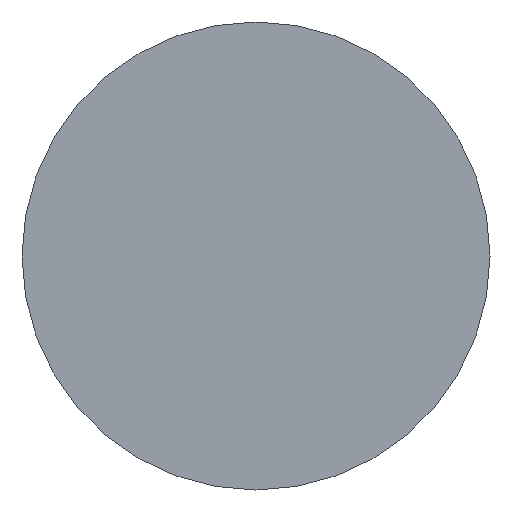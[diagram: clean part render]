
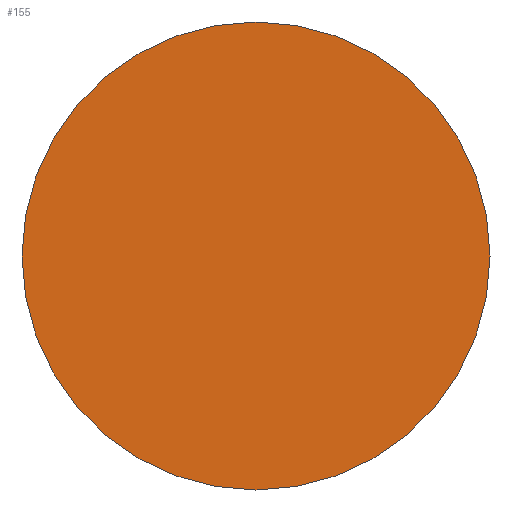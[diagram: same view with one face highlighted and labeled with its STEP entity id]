
A CAD part, left-side view. The second image highlights one B-rep face of the part: STEP entity #155.
In plain terms, the highlighted planar face has unit normal (-1, 0, 0).
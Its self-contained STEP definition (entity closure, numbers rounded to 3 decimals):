
#3 = VERTEX_POINT ( 'NONE', #53 ) ;
#7 = PLANE ( 'NONE',  #92 ) ;
#18 = CARTESIAN_POINT ( 'NONE',  ( 0., 0., 0. ) ) ;
#23 = CARTESIAN_POINT ( 'NONE',  ( 0., 0., -2. ) ) ;
#34 = ORIENTED_EDGE ( 'NONE', *, *, #183, .T. ) ;
#53 = CARTESIAN_POINT ( 'NONE',  ( 0., 0., 2. ) ) ;
#74 = FACE_OUTER_BOUND ( 'NONE', #143, .T. ) ;
#79 = AXIS2_PLACEMENT_3D ( 'NONE', #18, #281, #151 ) ;
#82 = CIRCLE ( 'NONE', #79, 2. ) ;
#89 = ORIENTED_EDGE ( 'NONE', *, *, #108, .T. ) ;
#92 = AXIS2_PLACEMENT_3D ( 'NONE', #278, #210, #133 ) ;
#93 = CIRCLE ( 'NONE', #114, 2. ) ;
#108 = EDGE_CURVE ( 'NONE', #3, #237, #93, .T. ) ;
#110 = DIRECTION ( 'NONE',  ( -1., 0., 0. ) ) ;
#114 = AXIS2_PLACEMENT_3D ( 'NONE', #231, #110, #257 ) ;
#133 = DIRECTION ( 'NONE',  ( 0., 0., -1. ) ) ;
#143 = EDGE_LOOP ( 'NONE', ( #89, #34 ) ) ;
#151 = DIRECTION ( 'NONE',  ( 0., 0., 1. ) ) ;
#155 = ADVANCED_FACE ( 'NONE', ( #74 ), #7, .F. ) ;
#183 = EDGE_CURVE ( 'NONE', #237, #3, #82, .T. ) ;
#210 = DIRECTION ( 'NONE',  ( 1., 0., 0. ) ) ;
#231 = CARTESIAN_POINT ( 'NONE',  ( 0., 0., 0. ) ) ;
#237 = VERTEX_POINT ( 'NONE', #23 ) ;
#257 = DIRECTION ( 'NONE',  ( 0., 0., 1. ) ) ;
#278 = CARTESIAN_POINT ( 'NONE',  ( 0., 0., 0. ) ) ;
#281 = DIRECTION ( 'NONE',  ( -1., 0., 0. ) ) ;
